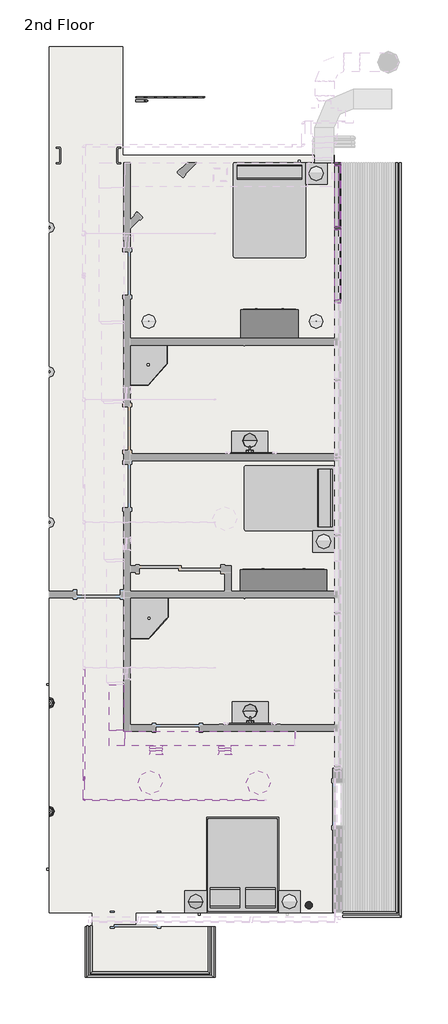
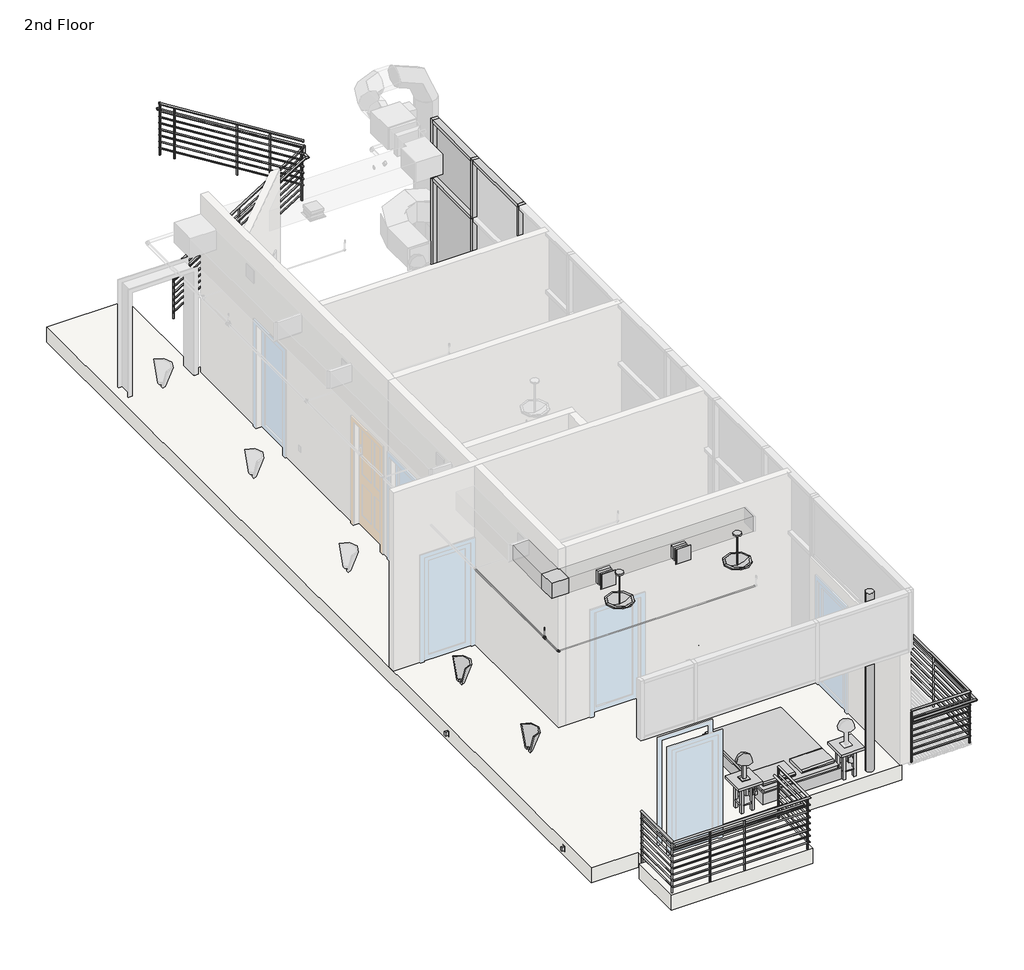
# One storey, part 2 of 7: 14 pipe segments, 11 furniture elements, 10 members, 10 pipe fittings, 5 light fixtures, 4 duct segments, 4 flow terminals, 3 duct fittings, 13 other elements.
"""IFC4 building model written with IfcOpenShell, lengths in millimetres."""

from ifc_helpers import new_model, si_unit, point, frame, frame_2d, origin, place, context, project, spatial, polyline, circle_curve, trimmed, segment, composite_curve, outline, extrude, transform, mapped, element, save
from ifc_brep_helpers import plane_surface, cylinder_surface, advanced_brep
from components import air_terminal_37217d21, air_terminal_79e12533, receptacle_gfci_367a9a66, rectangular_duct_mitered_elbow_standard_4ee72a37, rectangular_duct_takeoff_sidewall_standard_8ecd27dc, fire_suppression_terminal_f250fbbb, flow_terminal_45145805, flow_terminal_b3096e9a, furniture_1d2926bd, furniture_0253826f, furniture_e1791683, furniture_9fa109b2, furniture_7c473f12, mirror_3_x_4_424c4327, furniture_097b63cf, pendant_light_hemisphere_100w_120v_61837e73, sconce_light_uplight_100w_120v_70b3641e, table_lamp_hemispheric_60w_120v_02721d88, member_f0fea5a5, member_2b49869a, member_b964ebf8, member_798c2a08, member_d386c7f1, member_75074519, member_ee409385, pipe_elbow_standard_aad62f2d, pipe_elbow_standard_a25a5501, pipe_elbow1_standard_2_feaaf02c, pipe_pvc_bend_standard_46eee2b6, pipe_pvc_short_sanitary_tee1_standard_2_93607447, pipe_pvc_transition_eccentric1_standard_2_66b067ff, pipe_pvc_transition_eccentric1_standard_2_d7abf36d, pipe_tee_standard_feafe2f1, pipe_transition_eccentric_standard_3095b3c8, pipe_transition_eccentric_standard_dbf49378, system_panel_system_panel_958c1d96, system_panel_system_panel_35b29ec2, guardrail_pipe_0039a5d5, guardrail_pipe_96ed721d, guardrail_pipe_dc18c05d

model = new_model("IFC4")

# Units and contexts
model_context = context("Model", 3, world=origin())
ifc_project = project(units=[si_unit("LENGTHUNIT", "METRE", prefix="MILLI")], contexts=[model_context])

# Site, building, storey
site = spatial("IfcSite", under=ifc_project)
building = spatial("IfcBuilding", under=site)
storey = spatial("IfcBuildingStorey", under=building, Name="2nd Floor", Elevation=7924.8)

# Air terminals
placement = place(None, origin())
air_terminal_shape = air_terminal_37217d21(model_context)
element("IfcAirTerminal", 1, ObjectType="Sidewall Diffuser : 10\" x 10\"", at=placement, inside=storey, context=model_context, shape_type="MappedRepresentation", body=[
    mapped(air_terminal_shape, transform((-2209.5604947, -3347.1311684, 11023.6), x_axis=(1.0, 0.0, 0.0), y_axis=(0.0, 1.0, 0.0), z_axis=(0.0, 0.0, 1.0))),
])
air_terminal_2_shape = air_terminal_79e12533(model_context)
element("IfcAirTerminal", 2, ObjectType="Sidewall Diffuser : 10\" x 10\"", at=placement, inside=storey, context=model_context, shape_type="MappedRepresentation", body=[
    mapped(air_terminal_2_shape, transform((-755.4104947, -3347.1311684, 11023.6), x_axis=(1.0, 0.0, 0.0), y_axis=(0.0, 1.0, 0.0), z_axis=(0.0, 0.0, 1.0))),
])

# Proxies
receptacle_gfci_shape = receptacle_gfci_367a9a66(model_context)
element("IfcBuildingElementProxy", 3, Name="Receptacle : Standard", ObjectType="Receptacle : Standard", at=placement, inside=storey, context=model_context, shape_type="MappedRepresentation", body=[
    mapped(receptacle_gfci_shape, transform((-1295.1604947, -6684.540357, 8382.0), x_axis=(1.0, 0.0, 0.0), y_axis=(0.0, 0.0, -1.0), z_axis=(0.0, 1.0, 0.0))),
])
element("IfcBuildingElementProxy", 4, Name="Receptacle : Standard", ObjectType="Receptacle : Standard", at=placement, inside=storey, context=model_context, shape_type="MappedRepresentation", body=[
    mapped(receptacle_gfci_shape, transform((-4467.0439612, -5770.140357, 7772.4), x_axis=(0.0, 1.0, 0.0), y_axis=(0.0, 0.0, 1.0), z_axis=(1.0, 0.0, 0.0))),
])
element("IfcBuildingElementProxy", 5, Name="Receptacle : Standard", ObjectType="Receptacle : Standard", at=placement, inside=storey, context=model_context, shape_type="MappedRepresentation", body=[
    mapped(receptacle_gfci_shape, transform((-4467.0439612, -1870.3689983, 7772.4), x_axis=(0.0, 1.0, 0.0), y_axis=(0.0, 0.0, 1.0), z_axis=(1.0, 0.0, 0.0))),
])

# Column
element("IfcColumn", 6, ObjectType="Round Column : 06\" Diameter", at=placement, inside=storey, context=model_context, shape_type="SweptSolid", body=[
    extrude(outline(composite_curve([segment(trimmed(circle_curve(frame_2d((1019.3560388, -6532.140357)), 76.2), [point((1095.5560388, -6532.140357))], [point((943.1560388, -6532.140357))], False, "CARTESIAN"), True, "CONTINUOUS"), segment(trimmed(circle_curve(frame_2d((1019.3560388, -6532.140357)), 76.2), [point((943.1560388, -6532.140357))], [point((1019.3560388, -6455.940357))], False, "CARTESIAN"), True, "CONTINUOUS"), segment(trimmed(circle_curve(frame_2d((1019.3560388, -6532.140357)), 76.2), [point((1019.3560388, -6455.940357))], [point((1095.5560388, -6532.140357))], False, "CARTESIAN"), True, "CONTINUOUS")], self_intersect=False)), frame((0.0, 0.0, 7924.8), z_axis=(0.0, 0.0, 1.0), x_axis=(1.0, 0.0, 0.0)), (0.0, 0.0, 1.0), 3657.6),
])

# Duct fittings
rectangular_duct_mitered_elbow_standard_shape = rectangular_duct_mitered_elbow_standard_4ee72a37(model_context)
element("IfcDuctFitting", 7, ObjectType="Rectangular Duct Mitered Elbow : Standard", at=placement, inside=storey, context=model_context, shape_type="MappedRepresentation", body=[
    mapped(rectangular_duct_mitered_elbow_standard_shape, transform((-3047.7604947, -3013.3689983, 11023.6), x_axis=(0.0, -1.0, 0.0), y_axis=(1.0, 0.0, 0.0), z_axis=(0.0, 0.0, 1.0))),
])
rectangular_duct_takeoff_sidewall_standard_shape = rectangular_duct_takeoff_sidewall_standard_8ecd27dc(model_context)
element("IfcDuctFitting", 8, ObjectType="Rectangular Duct Takeoff - Sidewall : Standard", at=placement, inside=storey, context=model_context, shape_type="MappedRepresentation", body=[
    mapped(rectangular_duct_takeoff_sidewall_standard_shape, transform((-2209.5604947, -3165.7689983, 11023.6), x_axis=(0.0, -1.0, 0.0), y_axis=(1.0, 0.0, 0.0), z_axis=(0.0, 0.0, 1.0))),
])
element("IfcDuctFitting", 9, ObjectType="Rectangular Duct Takeoff - Sidewall : Standard", at=placement, inside=storey, context=model_context, shape_type="MappedRepresentation", body=[
    mapped(rectangular_duct_takeoff_sidewall_standard_shape, transform((-755.4104947, -3165.7689983, 11023.6), x_axis=(0.0, -1.0, 0.0), y_axis=(1.0, 0.0, 0.0), z_axis=(0.0, 0.0, 1.0))),
])

# Duct segments
element("IfcDuctSegment", 10, ObjectType="Mitered Elbows / Taps", at=placement, inside=storey, context=model_context, shape_type="SweptSolid", body=[
    extrude(outline(polyline([(-2336.5604947, -3216.5689983), (-2082.5604947, -3216.5689983), (-2082.5604947, -3270.9311684), (-2336.5604947, -3270.9311684), (-2336.5604947, -3216.5689983)])), frame((0.0, 0.0, 10896.6), z_axis=(0.0, 0.0, 1.0), x_axis=(1.0, 0.0, 0.0)), (0.0, 0.0, 1.0), 254.0),
])
element("IfcDuctSegment", 11, ObjectType="Mitered Elbows / Taps", at=placement, inside=storey, context=model_context, shape_type="SweptSolid", body=[
    extrude(outline(polyline([(-882.4104947, -3216.5689983), (-628.4104947, -3216.5689983), (-628.4104947, -3270.9311684), (-882.4104947, -3270.9311684), (-882.4104947, -3216.5689983)])), frame((0.0, 0.0, 10896.6), z_axis=(0.0, 0.0, 1.0), x_axis=(1.0, 0.0, 0.0)), (0.0, 0.0, 1.0), 254.0),
])
element("IfcDuctSegment", 12, ObjectType="Mitered Elbows / Tees", at=placement, inside=storey, context=model_context, shape_type="SweptSolid", body=[
    extrude(outline(polyline([(-3200.1604947, -1870.3689983), (-2895.3604947, -1870.3689983), (-2895.3604947, -2835.5689983), (-3200.1604947, -2835.5689983), (-3200.1604947, -1870.3689983)])), frame((0.0, 0.0, 10871.2), z_axis=(0.0, 0.0, 1.0), x_axis=(1.0, 0.0, 0.0)), (0.0, 0.0, 1.0), 304.8),
])
element("IfcDuctSegment", 13, ObjectType="Mitered Elbows / Tees", at=placement, inside=storey, context=model_context, shape_type="SweptSolid", body=[
    extrude(outline(polyline([(-2869.9604947, -3165.7689983), (-2869.9604947, -2860.9689983), (718.6069436, -2860.9689983), (718.6069436, -3165.7689983), (-2869.9604947, -3165.7689983)])), frame((0.0, 0.0, 10871.2), z_axis=(0.0, 0.0, 1.0), x_axis=(1.0, 0.0, 0.0)), (0.0, 0.0, 1.0), 304.8),
])

# Fire suppression terminal
fire_suppression_terminal_shape = fire_suppression_terminal_f250fbbb(model_context)
element("IfcFireSuppressionTerminal", 14, ObjectType="Sprinkler - Upright : 1/2\" Upright", at=placement, inside=storey, context=model_context, shape_type="MappedRepresentation", body=[
    mapped(fire_suppression_terminal_shape, transform((-3733.5604947, -3851.5689983, 10820.4), x_axis=(1.0, 0.0, 0.0), y_axis=(0.0, 1.0, 0.0), z_axis=(0.0, 0.0, 1.0))),
])

# Flow terminals
flow_terminal_shape = flow_terminal_45145805(model_context)
element("IfcFlowTerminal", 15, ObjectType="Corner Shower Stall : 32\"x34\"", at=placement, inside=storey, context=model_context, shape_type="MappedRepresentation", body=[
    mapped(flow_terminal_shape, transform((-2809.6608658, 5568.4431127, 7924.8), x_axis=(0.0, -1.0, 0.0), y_axis=(1.0, 0.0, 0.0), z_axis=(0.0, 0.0, 1.0))),
])
element("IfcFlowTerminal", 16, ObjectType="Corner Shower Stall : 32\"x34\"", at=placement, inside=storey, context=model_context, shape_type="MappedRepresentation", body=[
    mapped(flow_terminal_shape, transform((-2793.7882183, 215.0569971, 7924.8), x_axis=(0.0, -1.0, 0.0), y_axis=(1.0, 0.0, 0.0), z_axis=(0.0, 0.0, 1.0))),
])
flow_terminal_2_shape = flow_terminal_b3096e9a(model_context)
element("IfcFlowTerminal", 17, ObjectType="Vanity Lavatory : 30\" x 19\"", at=placement, inside=storey, context=model_context, shape_type="MappedRepresentation", body=[
    mapped(flow_terminal_2_shape, transform((-228.4021776, 3000.1640137, 7924.8), x_axis=(0.0, 1.0, 0.0), y_axis=(-1.0, 0.0, 0.0), z_axis=(0.0, 0.0, 1.0))),
])
element("IfcFlowTerminal", 18, ObjectType="Vanity Lavatory : 30\" x 19\"", at=placement, inside=storey, context=model_context, shape_type="MappedRepresentation", body=[
    mapped(flow_terminal_2_shape, transform((-221.3107885, -2715.6280238, 7924.8), x_axis=(0.0, 1.0, 0.0), y_axis=(-1.0, 0.0, 0.0), z_axis=(0.0, 0.0, 1.0))),
])

# Furniture
furniture_shape = furniture_1d2926bd(model_context)
element("IfcFurniture", 19, ObjectType="Bed-Box : Queen 60\" x 79\"", at=placement, inside=storey, context=model_context, shape_type="MappedRepresentation", body=[
    mapped(furniture_shape, transform((-41.6080356, -5915.6698652, 7924.8), x_axis=(-1.0, 0.0, 0.0), y_axis=(0.0, -1.0, 0.0), z_axis=(0.0, 0.0, 1.0))),
])
furniture_2_shape = furniture_0253826f(model_context)
element("IfcFurniture", 20, ObjectType="Bed-Standard : Double 54\" x 75\"", at=placement, inside=storey, context=model_context, shape_type="MappedRepresentation", body=[
    mapped(furniture_2_shape, transform((652.2011208, 2338.1195263, 7924.8), x_axis=(0.0, -1.0000000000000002, 0.0), y_axis=(1.0000000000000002, 0.0, 0.0), z_axis=(0.0, 0.0, 1.0))),
])
furniture_3_shape = furniture_e1791683(model_context)
element("IfcFurniture", 21, ObjectType="Bed-Standard : Queen 60\" x 79\"", at=placement, inside=storey, context=model_context, shape_type="MappedRepresentation", body=[
    mapped(furniture_3_shape, transform((-83.9824858, 8194.6547249, 7924.8), x_axis=(1.0, 0.0, 0.0), y_axis=(0.0, 1.0, 0.0), z_axis=(0.0, 0.0, 1.0))),
])
furniture_4_shape = furniture_9fa109b2(model_context)
element("IfcFurniture", 22, ObjectType="Dresser : 48\" x 72\" x 24\"", at=placement, inside=storey, context=model_context, shape_type="MappedRepresentation", body=[
    mapped(furniture_4_shape, transform((-81.687221, 5380.1180476, 7924.8), x_axis=(-1.0, 0.0, 0.0), y_axis=(0.0, -1.0, 0.0), z_axis=(0.0, 0.0, 1.0))),
])
furniture_5_shape = furniture_7c473f12(model_context)
element("IfcFurniture", 23, ObjectType="Dresser : 72\" x 60\" x 18\"", at=placement, inside=storey, context=model_context, shape_type="MappedRepresentation", body=[
    mapped(furniture_5_shape, transform((213.6462455, -33.5954995, 7924.8), x_axis=(-1.0, 0.0, 0.0), y_axis=(0.0, -1.0, 0.0), z_axis=(0.0, 0.0, 1.0))),
])
mirror_3_x_4_shape = mirror_3_x_4_424c4327(model_context)
element("IfcFurniture", 24, ObjectType="Mirror : 3' x 4'", at=placement, inside=storey, context=model_context, shape_type="MappedRepresentation", body=[
    mapped(mirror_3_x_4_shape, transform((-225.2439612, -2714.9189983, 8839.2), x_axis=(-1.0, 0.0, 0.0), y_axis=(0.0, 0.0, 1.0), z_axis=(0.0, 1.0, 0.0))),
])
element("IfcFurniture", 25, ObjectType="Mirror : 3' x 4'", at=placement, inside=storey, context=model_context, shape_type="MappedRepresentation", body=[
    mapped(mirror_3_x_4_shape, transform((-199.8439612, 3000.0810017, 8839.2), x_axis=(-1.0, 0.0, 0.0), y_axis=(0.0, 0.0, 1.0), z_axis=(0.0, 1.0, 0.0))),
])
furniture_6_shape = furniture_097b63cf(model_context)
element("IfcFurniture", 26, ObjectType="Table-Night Stand : 18\" x 18\" x 24\"", at=placement, inside=storey, context=model_context, shape_type="MappedRepresentation", body=[
    mapped(furniture_6_shape, transform((377.5058751, -6684.540357, 7924.8), x_axis=(1.0, 0.0, 0.0), y_axis=(0.0, 1.0, 0.0), z_axis=(0.0, 0.0, 1.0))),
])
element("IfcFurniture", 27, ObjectType="Table-Night Stand : 18\" x 18\" x 24\"", at=placement, inside=storey, context=model_context, shape_type="MappedRepresentation", body=[
    mapped(furniture_6_shape, transform((-1603.6941249, -6684.540357, 7924.8), x_axis=(1.0, 0.0, 0.0), y_axis=(0.0, 1.0, 0.0), z_axis=(0.0, 0.0, 1.0))),
])
element("IfcFurniture", 28, ObjectType="Table-Night Stand : 18\" x 18\" x 24\"", at=placement, inside=storey, context=model_context, shape_type="MappedRepresentation", body=[
    mapped(furniture_6_shape, transform((1098.1724085, 923.6310017, 7924.8), x_axis=(1.0, 0.0, 0.0), y_axis=(0.0, 1.0, 0.0), z_axis=(0.0, 0.0, 1.0))),
])
element("IfcFurniture", 29, ObjectType="Table-Night Stand : 18\" x 18\" x 24\"", at=placement, inside=storey, context=model_context, shape_type="MappedRepresentation", body=[
    mapped(furniture_6_shape, transform((945.7724085, 8695.159643, 7924.8), x_axis=(1.0, 0.0, 0.0), y_axis=(0.0, 1.0, 0.0), z_axis=(0.0, 0.0, 1.0))),
])

# Light fixtures
pendant_light_hemisphere_100w_120v_shape = pendant_light_hemisphere_100w_120v_61837e73(model_context)
element("IfcLightFixture", 30, ObjectType="Pendant Light - Hemisphere : 100W - 120V", at=placement, inside=storey, context=model_context, shape_type="MappedRepresentation", body=[
    mapped(pendant_light_hemisphere_100w_120v_shape, transform((-2333.4439612, -3941.340357, 11582.4), x_axis=(1.0, 0.0, 0.0), y_axis=(0.0, -1.0, 0.0), z_axis=(0.0, 0.0, -1.0))),
])
element("IfcLightFixture", 31, ObjectType="Pendant Light - Hemisphere : 100W - 120V", at=placement, inside=storey, context=model_context, shape_type="MappedRepresentation", body=[
    mapped(pendant_light_hemisphere_100w_120v_shape, transform((-47.4439612, -3941.340357, 11582.4), x_axis=(1.0, 0.0, 0.0), y_axis=(0.0, -1.0, 0.0), z_axis=(0.0, 0.0, -1.0))),
])
sconce_light_uplight_100w_120v_shape = sconce_light_uplight_100w_120v_70b3641e(model_context)
element("IfcLightFixture", 32, ObjectType="Sconce Light - Uplight : 60W - 120V", at=placement, inside=storey, context=model_context, shape_type="MappedRepresentation", body=[
    mapped(sconce_light_uplight_100w_120v_shape, transform((-4467.0439612, -2254.8825454, 9245.6), x_axis=(0.0, 1.0, 0.0), y_axis=(0.0, 0.0, 1.0), z_axis=(1.0, 0.0, 0.0))),
])
element("IfcLightFixture", 33, ObjectType="Sconce Light - Uplight : 60W - 120V", at=placement, inside=storey, context=model_context, shape_type="MappedRepresentation", body=[
    mapped(sconce_light_uplight_100w_120v_shape, transform((-4467.0439612, -4550.940357, 9245.6), x_axis=(0.0, 1.0, 0.0), y_axis=(0.0, 0.0, 1.0), z_axis=(1.0, 0.0, 0.0))),
])
table_lamp_hemispheric_60w_120v_shape = table_lamp_hemispheric_60w_120v_02721d88(model_context)
element("IfcLightFixture", 34, ObjectType="Table Lamp - Hemispheric : 60W - 120V", at=placement, inside=storey, context=model_context, shape_type="MappedRepresentation", body=[
    mapped(table_lamp_hemispheric_60w_120v_shape, transform((-1371.3604947, -6455.940357, 8521.7), x_axis=(1.0, 0.0, 0.0), y_axis=(0.0, 1.0, 0.0), z_axis=(0.0, 0.0, 1.0))),
])

# Members
member_shape = member_f0fea5a5(model_context)
element("IfcMember", 35, ObjectType="Rectangular Mullion : 2.5\" x 5\" rectangular", at=placement, inside=storey, context=model_context, shape_type="MappedRepresentation", body=[
    mapped(member_shape, transform((1628.9560388, 7768.059643, 7924.8), x_axis=(0.0, -1.0, 0.0), y_axis=(-1.0, 0.0, 0.0), z_axis=(0.0, 0.0, -1.0))),
])
member_2_shape = member_2b49869a(model_context)
element("IfcMember", 36, ObjectType="Rectangular Mullion : 2.5\" x 5\" rectangular", at=placement, inside=storey, context=model_context, shape_type="MappedRepresentation", body=[
    mapped(member_2_shape, transform((1628.9560388, 6218.659643, 10363.2), x_axis=(0.0, -1.0, 0.0), y_axis=(-1.0, 0.0, 0.0), z_axis=(0.0, 0.0, -1.0))),
])
element("IfcMember", 37, ObjectType="Rectangular Mullion : 2.5\" x 5\" rectangular", at=placement, inside=storey, context=model_context, shape_type="MappedRepresentation", body=[
    mapped(member_2_shape, transform((1628.9560388, 7768.059643, 10363.2), x_axis=(0.0, -1.0, 0.0), y_axis=(-1.0, 0.0, 0.0), z_axis=(0.0, 0.0, -1.0))),
])
member_3_shape = member_b964ebf8(model_context)
element("IfcMember", 38, ObjectType="Rectangular Mullion : 2.5\" x 5\" rectangular", at=placement, inside=storey, context=model_context, shape_type="MappedRepresentation", body=[
    mapped(member_3_shape, transform((1628.9560388, 6250.409643, 11582.4), x_axis=(0.0, 0.0, 1.0), y_axis=(-1.0, 0.0, 0.0), z_axis=(0.0, -1.0, 0.0))),
])
member_4_shape = member_798c2a08(model_context)
element("IfcMember", 39, ObjectType="Rectangular Mullion : 2.5\" x 5\" rectangular", at=placement, inside=storey, context=model_context, shape_type="MappedRepresentation", body=[
    mapped(member_4_shape, transform((1628.9560388, 7799.809643, 11582.4), x_axis=(0.0, 0.0, 1.0), y_axis=(-1.0, 0.0, 0.0), z_axis=(0.0, -1.0, 0.0))),
])
member_5_shape = member_d386c7f1(model_context)
element("IfcMember", 40, ObjectType="Rectangular Mullion : 2.5\" x 5\" rectangular", at=placement, inside=storey, context=model_context, shape_type="MappedRepresentation", body=[
    mapped(member_5_shape, transform((1628.9560388, 7799.809643, 10363.2), x_axis=(0.0, 0.0, 1.0), y_axis=(-1.0, 0.0, 0.0), z_axis=(0.0, -1.0, 0.0))),
])
element("IfcMember", 41, ObjectType="Rectangular Mullion : 2.5\" x 5\" rectangular", at=placement, inside=storey, context=model_context, shape_type="MappedRepresentation", body=[
    mapped(member_4_shape, transform((1628.9560388, 9088.859643, 7924.8), x_axis=(0.0, 0.0, -1.0), y_axis=(-1.0, 0.0, 0.0), z_axis=(0.0, 1.0, 0.0))),
])
element("IfcMember", 42, ObjectType="Rectangular Mullion : 2.5\" x 5\" rectangular", at=placement, inside=storey, context=model_context, shape_type="MappedRepresentation", body=[
    mapped(member_3_shape, transform((1628.9560388, 7736.309643, 7924.8), x_axis=(0.0, 0.0, -1.0), y_axis=(-1.0, 0.0, 0.0), z_axis=(0.0, 1.0, 0.0))),
])
member_6_shape = member_75074519(model_context)
element("IfcMember", 43, ObjectType="Rectangular Mullion : 2.5\" x 5\" rectangular", at=placement, inside=storey, context=model_context, shape_type="MappedRepresentation", body=[
    mapped(member_6_shape, transform((1628.9560388, 9152.359643, 11582.4), x_axis=(0.0, 1.0, 0.0), y_axis=(-1.0, 0.0, 0.0), z_axis=(0.0, 0.0, 1.0))),
])
member_7_shape = member_ee409385(model_context)
element("IfcMember", 44, ObjectType="Rectangular Mullion : 2.5\" x 5\" rectangular", at=placement, inside=storey, context=model_context, shape_type="MappedRepresentation", body=[
    mapped(member_7_shape, transform((1628.9560388, 9152.359643, 10363.2), x_axis=(0.0, 1.0, 0.0), y_axis=(-1.0, 0.0, 0.0), z_axis=(0.0, 0.0, 1.0))),
])

# Pipe fittings
pipe_elbow_standard_shape = pipe_elbow_standard_aad62f2d(model_context)
element("IfcPipeFitting", 45, ObjectType="Pipe Elbow : Standard", at=placement, inside=storey, context=model_context, shape_type="MappedRepresentation", body=[
    mapped(pipe_elbow_standard_shape, transform((-119.7107885, -2786.7000325, 8610.6), x_axis=(0.0, -1.0, 0.0), y_axis=(0.0, 0.0, -1.0), z_axis=(1.0, 0.0, 0.0))),
])
pipe_elbow_standard_2_shape = pipe_elbow_standard_a25a5501(model_context)
element("IfcPipeFitting", 46, ObjectType="Pipe Elbow : Standard", at=placement, inside=storey, context=model_context, shape_type="MappedRepresentation", body=[
    mapped(pipe_elbow_standard_2_shape, transform((-1039.2875177, -2786.7000325, 7315.2), x_axis=(0.0, -1.0, 0.0), y_axis=(1.0, 0.0, 0.0), z_axis=(0.0, 0.0, 1.0))),
])
pipe_elbow1_standard_2_shape = pipe_elbow1_standard_2_feaaf02c(model_context)
element("IfcPipeFitting", 47, ObjectType="Pipe Elbow1 : Standard 2", at=placement, inside=storey, context=model_context, shape_type="MappedRepresentation", body=[
    mapped(pipe_elbow1_standard_2_shape, transform((-3733.5604947, -4308.7689983, 10668.0), x_axis=(-1.0, 0.0, 0.0), y_axis=(0.0, 1.0, 0.0), z_axis=(0.0, 0.0, -1.0))),
])
pipe_pvc_bend_standard_shape = pipe_pvc_bend_standard_46eee2b6(model_context)
element("IfcPipeFitting", 48, ObjectType="Pipe PVC Bend : Standard", at=placement, inside=storey, context=model_context, shape_type="MappedRepresentation", body=[
    mapped(pipe_pvc_bend_standard_shape, transform((-1102.7042057, -2435.4814071, 7468.4330847), x_axis=(0.0, -0.9999458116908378, 0.010410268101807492), y_axis=(0.9999451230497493, 0.00010906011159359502, 0.010475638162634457), z_axis=(-0.01047620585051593, 0.010409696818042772, 0.9998909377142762))),
])
pipe_pvc_short_sanitary_tee1_standard_2_shape = pipe_pvc_short_sanitary_tee1_standard_2_93607447(model_context)
element("IfcPipeFitting", 49, ObjectType="Pipe PVC Short Sanitary Tee1 : Standard 2", at=placement, inside=storey, context=model_context, shape_type="MappedRepresentation", body=[
    mapped(pipe_pvc_short_sanitary_tee1_standard_2_shape, transform((-1102.7042057, -2148.4076018, 7465.4444075), x_axis=(0.0, -0.999945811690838, 0.01041026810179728), y_axis=(0.9997831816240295, 0.00021677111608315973, 0.020821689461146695), z_axis=(-0.020822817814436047, 0.010408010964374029, 0.9997290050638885))),
])
pipe_pvc_transition_eccentric1_standard_2_shape = pipe_pvc_transition_eccentric1_standard_2_66b067ff(model_context)
element("IfcPipeFitting", 50, ObjectType="Pipe PVC Transition Eccentric1 : Standard 2", at=placement, inside=storey, context=model_context, shape_type="MappedRepresentation", body=[
    mapped(pipe_pvc_transition_eccentric1_standard_2_shape, transform((-1167.7917057, -2295.6067121, 7466.9768727), x_axis=(0.0, -0.999945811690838, 0.010410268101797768), y_axis=(-1.0, 0.0, 0.0), z_axis=(0.0, -0.010410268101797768, -0.999945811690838))),
])
pipe_pvc_transition_eccentric1_standard_2_2_shape = pipe_pvc_transition_eccentric1_standard_2_d7abf36d(model_context)
element("IfcPipeFitting", 51, ObjectType="Pipe PVC Transition Eccentric1 : Standard 2", at=placement, inside=storey, context=model_context, shape_type="MappedRepresentation", body=[
    mapped(pipe_pvc_transition_eccentric1_standard_2_2_shape, transform((-1005.9460272, -2149.0849557, 7402.3616402), x_axis=(0.9997831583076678, 8.132927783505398e-07, 0.02082393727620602), y_axis=(0.02082281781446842, -0.010408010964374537, -0.9997290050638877), z_axis=(0.00021592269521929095, 0.9999458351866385, -0.010405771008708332))),
])
pipe_tee_standard_shape = pipe_tee_standard_feafe2f1(model_context)
element("IfcPipeFitting", 52, ObjectType="Pipe Tee : Standard", at=placement, inside=storey, context=model_context, shape_type="MappedRepresentation", body=[
    mapped(pipe_tee_standard_shape, transform((-3733.5604947, -3851.5689983, 10668.0), x_axis=(0.0, -1.0, 0.0), y_axis=(0.0, 0.0, -1.0), z_axis=(1.0, 0.0, 0.0))),
])
pipe_transition_eccentric_standard_shape = pipe_transition_eccentric_standard_3095b3c8(model_context)
element("IfcPipeFitting", 53, ObjectType="Pipe Transition Eccentric : Standard", at=placement, inside=storey, context=model_context, shape_type="MappedRepresentation", body=[
    mapped(pipe_transition_eccentric_standard_shape, transform((-3733.5604947, -3851.5689983, 10698.1625), x_axis=(0.0, 0.0, 1.0), y_axis=(0.0, -1.0, 0.0), z_axis=(1.0, 0.0, 0.0))),
])
pipe_transition_eccentric_standard_2_shape = pipe_transition_eccentric_standard_dbf49378(model_context)
element("IfcPipeFitting", 54, ObjectType="Pipe Transition Eccentric : Standard", at=placement, inside=storey, context=model_context, shape_type="MappedRepresentation", body=[
    mapped(pipe_transition_eccentric_standard_2_shape, transform((-3733.5604947, -3881.7314983, 10668.0), x_axis=(0.0, -1.0, 0.0), y_axis=(1.0, 0.0, 0.0), z_axis=(0.0, 0.0, 1.0))),
])

# Pipe segments
element("IfcPipeSegment", 55, ObjectType="PVC", at=placement, inside=storey, context=model_context, shape_type="AdvancedBrep", body=[
    advanced_brep(
    [(-221.3107885, -2414.3522738, 8553.4499999), (-242.3927885, -2435.4342738, 8553.4499999), (-221.3107885, -2456.5162738, 8553.4500001), (-200.2287885, -2435.4342738, 8553.4500001), (-221.3107836, -2414.3522787, 7514.2390771), (-200.2287836, -2435.4342787, 7514.2390773), (-221.3107836, -2456.5162787, 7514.2390773), (-242.3927836, -2435.4342787, 7514.2390771)],
    [
        (0, 1, circle_curve(frame((-221.3107885, -2435.4342738, 8553.4499999), z_axis=(0.0, 0.0, 1.0), x_axis=(0.0, 1.0, 0.0)), 21.082)),
        (1, 2, circle_curve(frame((-221.3107885, -2435.4342738, 8553.4499999), z_axis=(0.0, 0.0, 1.0), x_axis=(0.0, 1.0, 0.0)), 21.082)),
        (2, 3, circle_curve(frame((-221.3107885, -2435.4342738, 8553.4500001), z_axis=(0.0, 0.0, 1.0), x_axis=(0.0, 1.0, 0.0)), 21.082)),
        (3, 0, circle_curve(frame((-221.3107885, -2435.4342738, 8553.4500001), z_axis=(0.0, 0.0, 1.0), x_axis=(0.0, 1.0, 0.0)), 21.082)),
        (4, 5, circle_curve(frame((-221.3107885, -2435.4342738, 7514.2390771), z_axis=(0.0, 0.0, -1.0), x_axis=(0.0, 1.0, 0.0)), 21.0819951)),
        (5, 6, circle_curve(frame((-221.3107885, -2435.4342738, 7514.2390773), z_axis=(0.0, 0.0, -1.0), x_axis=(0.0, 1.0, 0.0)), 21.082005)),
        (6, 7, circle_curve(frame((-221.3107885, -2435.4342738, 7514.2390773), z_axis=(0.0, 0.0, -1.0), x_axis=(0.0, 1.0, 0.0)), 21.0820049)),
        (7, 4, circle_curve(frame((-221.3107885, -2435.4342738, 7514.2390771), z_axis=(0.0, 0.0, -1.0), x_axis=(0.0, 1.0, 0.0)), 21.081995)),
        (0, 4),
        (7, 1),
        (6, 2),
        (5, 3),
    ],
    [
        plane_surface(frame((-221.3107885, -2456.5162738, 8553.4500001), z_axis=(-4.768317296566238e-09, 4.738558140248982e-09, 1.0), x_axis=(-1.0, 0.0, -4.768317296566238e-09))),
        plane_surface(frame((-221.3107836, -2456.5162787, 7514.2390773), z_axis=(4.768317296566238e-09, -4.738558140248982e-09, -1.0), x_axis=(-1.0, 0.0, -4.768317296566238e-09))),
        cylinder_surface(frame((-221.3107885, -2435.4342738, 8553.45), z_axis=(0.0, 0.0, 1.0), x_axis=(0.0, 1.0, 0.0)), 21.082),
    ],
    [
        (0, [[1, 2, 3, 4]]),
        (1, [[5, 6, 7, 8]]),
        (2, [[-1, 9, -8, 10]]),
        (2, [[-2, -10, -7, 11]]),
        (2, [[-3, -11, -6, 12]]),
        (2, [[-4, -12, -5, -9]]),
    ],
),
])
element("IfcPipeSegment", 56, ObjectType="PVC", at=placement, inside=storey, context=model_context, shape_type="SweptSolid", body=[
    extrude(outline(composite_curve([segment(trimmed(circle_curve(frame_2d((0.0, 21.082)), 21.082), [point((-21.082, 21.082))], [point((0.0, 42.164))], False, "CARTESIAN"), True, "CONTINUOUS"), segment(trimmed(circle_curve(frame_2d((0.0, 21.082)), 21.082), [point((0.0, 42.164))], [point((21.082, 21.082))], False, "CARTESIAN"), True, "CONTINUOUS"), segment(trimmed(circle_curve(frame_2d((0.0, 21.082)), 21.082), [point((21.082, 21.082))], [point((0.0, 0.0))], False, "CARTESIAN"), True, "CONTINUOUS"), segment(trimmed(circle_curve(frame_2d((0.0, 21.082)), 21.082), [point((0.0, 0.0))], [point((-21.082, 21.082))], False, "CARTESIAN"), True, "CONTINUOUS")], self_intersect=False)), frame((-1102.7042057, -2318.0499771, 7446.1273833), z_axis=(0.0, -0.999945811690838, 0.01041026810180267), x_axis=(1.0, 0.0, 0.0)), (0.0, 0.0, 1.0), 80.702244),
])
element("IfcPipeSegment", 57, ObjectType="PVC", at=placement, inside=storey, context=model_context, shape_type="SweptSolid", body=[
    extrude(outline(composite_curve([segment(trimmed(circle_curve(frame_2d((0.0, 44.45)), 44.45), [point((-44.45, 44.45))], [point((0.0, 88.9))], False, "CARTESIAN"), True, "CONTINUOUS"), segment(trimmed(circle_curve(frame_2d((0.0, 44.45)), 44.45), [point((0.0, 88.9))], [point((44.45, 44.45))], False, "CARTESIAN"), True, "CONTINUOUS"), segment(trimmed(circle_curve(frame_2d((0.0, 44.45)), 44.45), [point((44.45, 44.45))], [point((0.0, 0.0))], False, "CARTESIAN"), True, "CONTINUOUS"), segment(trimmed(circle_curve(frame_2d((0.0, 44.45)), 44.45), [point((0.0, 0.0))], [point((-44.45, 44.45))], False, "CARTESIAN"), True, "CONTINUOUS")], self_intersect=False)), frame((-1102.7042057, -2196.5085245, 7421.4927693), z_axis=(0.0, -0.999945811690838, 0.01041026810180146), x_axis=(1.0, 0.0, 0.0)), (0.0, 0.0, 1.0), 99.5663194),
])
element("IfcPipeSegment", 58, ObjectType="PVC", at=placement, inside=storey, context=model_context, shape_type="SweptSolid", body=[
    extrude(outline(composite_curve([segment(trimmed(circle_curve(frame_2d((0.0, 44.4499999)), 44.45), [point((-44.4476104, 44.9109005))], [point((0.4609005, 88.8976104))], False, "CARTESIAN"), True, "CONTINUOUS"), segment(trimmed(circle_curve(frame_2d((0.0, 44.4499999)), 44.45), [point((0.4609005, 88.8976104))], [point((44.4476104, 43.9890994))], False, "CARTESIAN"), True, "CONTINUOUS"), segment(trimmed(circle_curve(frame_2d((0.0, 44.4499999)), 44.45), [point((44.4476104, 43.9890994))], [point((-0.4609005, 0.0023896))], False, "CARTESIAN"), True, "CONTINUOUS"), segment(trimmed(circle_curve(frame_2d((0.0, 44.4499999)), 44.45), [point((-0.4609005, 0.0023896))], [point((-44.4476104, 44.9109005))], False, "CARTESIAN"), True, "CONTINUOUS")], self_intersect=False)), frame((-1029.7108066, -2192.8575424, 7466.9664834), z_axis=(0.9997831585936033, 8.132926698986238e-07, 0.020823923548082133), x_axis=(0.020823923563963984, -3.9047219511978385e-05, -0.9997831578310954)), (0.0, 0.0, 1.0), 22.4143346),
])
element("IfcPipeSegment", 59, ObjectType="Standard", at=placement, inside=storey, context=model_context, shape_type="SweptSolid", body=[
    extrude(outline(composite_curve([segment(trimmed(circle_curve(frame_2d((-2786.7000325, 7315.2)), 7.9375), [point((-2794.6375325, 7315.2))], [point((-2786.7000325, 7323.1375))], False, "CARTESIAN"), True, "CONTINUOUS"), segment(trimmed(circle_curve(frame_2d((-2786.7000325, 7315.2)), 7.9375), [point((-2786.7000325, 7323.1375))], [point((-2778.7625325, 7315.2))], False, "CARTESIAN"), True, "CONTINUOUS"), segment(trimmed(circle_curve(frame_2d((-2786.7000325, 7315.2)), 7.9375), [point((-2778.7625325, 7315.2))], [point((-2786.7000325, 7307.2625))], False, "CARTESIAN"), True, "CONTINUOUS"), segment(trimmed(circle_curve(frame_2d((-2786.7000325, 7315.2)), 7.9375), [point((-2786.7000325, 7307.2625))], [point((-2794.6375325, 7315.2))], False, "CARTESIAN"), True, "CONTINUOUS")], self_intersect=False)), frame((-696.5451715, 0.0, 0.0), z_axis=(1.0, 0.0, 0.0), x_axis=(0.0, 1.0, 0.0)), (0.0, 0.0, 1.0), 553.021883),
])
element("IfcPipeSegment", 60, ObjectType="Standard", at=placement, inside=storey, context=model_context, shape_type="SweptSolid", body=[
    extrude(outline(composite_curve([segment(trimmed(circle_curve(frame_2d((8610.6, -119.7107885)), 7.9375), [point((8610.6, -127.6482885))], [point((8602.6625, -119.7107885))], False, "CARTESIAN"), True, "CONTINUOUS"), segment(trimmed(circle_curve(frame_2d((8610.6, -119.7107885)), 7.9375), [point((8602.6625, -119.7107885))], [point((8610.6, -111.7732885))], False, "CARTESIAN"), True, "CONTINUOUS"), segment(trimmed(circle_curve(frame_2d((8610.6, -119.7107885)), 7.9375), [point((8610.6, -111.7732885))], [point((8618.5375, -119.7107885))], False, "CARTESIAN"), True, "CONTINUOUS"), segment(trimmed(circle_curve(frame_2d((8610.6, -119.7107885)), 7.9375), [point((8618.5375, -119.7107885))], [point((8610.6, -127.6482885))], False, "CARTESIAN"), True, "CONTINUOUS")], self_intersect=False)), frame((0.0, -2769.2375325, 0.0), z_axis=(0.0, 1.0, 0.0), x_axis=(0.0, 0.0, 1.0)), (0.0, 0.0, 1.0), 53.6095087),
])
element("IfcPipeSegment", 61, ObjectType="Standard", at=placement, inside=storey, context=model_context, shape_type="SweptSolid", body=[
    extrude(outline(composite_curve([segment(trimmed(circle_curve(frame_2d((-119.7107885, -2786.7000325)), 7.9375), [point((-111.7732885, -2786.7000325))], [point((-119.7107885, -2794.6375325))], False, "CARTESIAN"), True, "CONTINUOUS"), segment(trimmed(circle_curve(frame_2d((-119.7107885, -2786.7000325)), 7.9375), [point((-119.7107885, -2794.6375325))], [point((-127.6482885, -2786.7000325))], False, "CARTESIAN"), True, "CONTINUOUS"), segment(trimmed(circle_curve(frame_2d((-119.7107885, -2786.7000325)), 7.9375), [point((-127.6482885, -2786.7000325))], [point((-119.7107885, -2778.7625325))], False, "CARTESIAN"), True, "CONTINUOUS"), segment(trimmed(circle_curve(frame_2d((-119.7107885, -2786.7000325)), 7.9375), [point((-119.7107885, -2778.7625325))], [point((-111.7732885, -2786.7000325))], False, "CARTESIAN"), True, "CONTINUOUS")], self_intersect=False)), frame((0.0, 0.0, 7339.0125), z_axis=(0.0, 0.0, 1.0), x_axis=(1.0, 0.0, 0.0)), (0.0, 0.0, 1.0), 1254.125),
])
element("IfcPipeSegment", 62, ObjectType="Standard", at=placement, inside=storey, context=model_context, shape_type="SweptSolid", body=[
    extrude(outline(composite_curve([segment(trimmed(circle_curve(frame_2d((8610.6, -322.9107885)), 7.9375), [point((8610.6, -330.8482885))], [point((8602.6625, -322.9107885))], False, "CARTESIAN"), True, "CONTINUOUS"), segment(trimmed(circle_curve(frame_2d((8610.6, -322.9107885)), 7.9375), [point((8602.6625, -322.9107885))], [point((8610.6, -314.9732885))], False, "CARTESIAN"), True, "CONTINUOUS"), segment(trimmed(circle_curve(frame_2d((8610.6, -322.9107885)), 7.9375), [point((8610.6, -314.9732885))], [point((8618.5375, -322.9107885))], False, "CARTESIAN"), True, "CONTINUOUS"), segment(trimmed(circle_curve(frame_2d((8610.6, -322.9107885)), 7.9375), [point((8618.5375, -322.9107885))], [point((8610.6, -330.8482885))], False, "CARTESIAN"), True, "CONTINUOUS")], self_intersect=False)), frame((0.0, -2743.8374309, 0.0), z_axis=(0.0, 1.0, 0.0), x_axis=(0.0, 0.0, 1.0)), (0.0, 0.0, 1.0), 28.2094071),
])
element("IfcPipeSegment", 63, ObjectType="Standard", at=placement, inside=storey, context=model_context, shape_type="SweptSolid", body=[
    extrude(outline(composite_curve([segment(trimmed(circle_curve(frame_2d((7315.2, -733.8514215)), 14.2875), [point((7315.2, -748.1389215))], [point((7300.9125, -733.8514215))], False, "CARTESIAN"), True, "CONTINUOUS"), segment(trimmed(circle_curve(frame_2d((7315.2, -733.8514215)), 14.2875), [point((7300.9125, -733.8514215))], [point((7315.2, -719.5639215))], False, "CARTESIAN"), True, "CONTINUOUS"), segment(trimmed(circle_curve(frame_2d((7315.2, -733.8514215)), 14.2875), [point((7315.2, -719.5639215))], [point((7329.4875, -733.8514215))], False, "CARTESIAN"), True, "CONTINUOUS"), segment(trimmed(circle_curve(frame_2d((7315.2, -733.8514215)), 14.2875), [point((7329.4875, -733.8514215))], [point((7315.2, -748.1389215))], False, "CARTESIAN"), True, "CONTINUOUS")], self_intersect=False)), frame((0.0, -3612.727857, 0.0), z_axis=(0.0, 1.0, 0.0), x_axis=(0.0, 0.0, 1.0)), (0.0, 0.0, 1.0), 795.8653246),
])
element("IfcPipeSegment", 64, ObjectType="Standard", at=placement, inside=storey, context=model_context, shape_type="SweptSolid", body=[
    extrude(outline(composite_curve([segment(trimmed(circle_curve(frame_2d((7213.6, -937.0514215)), 14.2875), [point((7213.6, -922.7639215))], [point((7227.8875, -937.0514215))], False, "CARTESIAN"), True, "CONTINUOUS"), segment(trimmed(circle_curve(frame_2d((7213.6, -937.0514215)), 14.2875), [point((7227.8875, -937.0514215))], [point((7213.6, -951.3389215))], False, "CARTESIAN"), True, "CONTINUOUS"), segment(trimmed(circle_curve(frame_2d((7213.6, -937.0514215)), 14.2875), [point((7213.6, -951.3389215))], [point((7199.3125, -937.0514215))], False, "CARTESIAN"), True, "CONTINUOUS"), segment(trimmed(circle_curve(frame_2d((7213.6, -937.0514215)), 14.2875), [point((7199.3125, -937.0514215))], [point((7213.6, -922.7639215))], False, "CARTESIAN"), True, "CONTINUOUS")], self_intersect=False)), frame((0.0, -3612.727857, 0.0), z_axis=(0.0, 1.0, 0.0), x_axis=(0.0, 0.0, 1.0)), (0.0, 0.0, 1.0), 821.2654262),
])
element("IfcPipeSegment", 65, ObjectType="Standard", at=placement, inside=storey, context=model_context, shape_type="SweptSolid", body=[
    extrude(outline(composite_curve([segment(trimmed(circle_curve(frame_2d((10668.0, -3733.5604947)), 14.2875), [point((10668.0, -3747.8479947))], [point((10653.7125, -3733.5604947))], False, "CARTESIAN"), True, "CONTINUOUS"), segment(trimmed(circle_curve(frame_2d((10668.0, -3733.5604947)), 14.2875), [point((10653.7125, -3733.5604947))], [point((10668.0, -3719.2729947))], False, "CARTESIAN"), True, "CONTINUOUS"), segment(trimmed(circle_curve(frame_2d((10668.0, -3733.5604947)), 14.2875), [point((10668.0, -3719.2729947))], [point((10682.2875, -3733.5604947))], False, "CARTESIAN"), True, "CONTINUOUS"), segment(trimmed(circle_curve(frame_2d((10668.0, -3733.5604947)), 14.2875), [point((10682.2875, -3733.5604947))], [point((10668.0, -3747.8479947))], False, "CARTESIAN"), True, "CONTINUOUS")], self_intersect=False)), frame((0.0, -3821.4064983, 0.0), z_axis=(0.0, 1.0, 0.0), x_axis=(0.0, 0.0, 1.0)), (0.0, 0.0, 1.0), 2276.6015656),
])
element("IfcPipeSegment", 66, ObjectType="Standard", at=placement, inside=storey, context=model_context, shape_type="SweptSolid", body=[
    extrude(outline(composite_curve([segment(trimmed(circle_curve(frame_2d((-3733.5604947, -3851.5689983)), 7.9375), [point((-3725.6229947, -3851.5689983))], [point((-3733.5604947, -3859.5064983))], False, "CARTESIAN"), True, "CONTINUOUS"), segment(trimmed(circle_curve(frame_2d((-3733.5604947, -3851.5689983)), 7.9375), [point((-3733.5604947, -3859.5064983))], [point((-3741.4979947, -3851.5689983))], False, "CARTESIAN"), True, "CONTINUOUS"), segment(trimmed(circle_curve(frame_2d((-3733.5604947, -3851.5689983)), 7.9375), [point((-3741.4979947, -3851.5689983))], [point((-3733.5604947, -3843.6314983))], False, "CARTESIAN"), True, "CONTINUOUS"), segment(trimmed(circle_curve(frame_2d((-3733.5604947, -3851.5689983)), 7.9375), [point((-3733.5604947, -3843.6314983))], [point((-3725.6229947, -3851.5689983))], False, "CARTESIAN"), True, "CONTINUOUS")], self_intersect=False)), frame((0.0, 0.0, 10705.30625), z_axis=(0.0, 0.0, 1.0), x_axis=(1.0, 0.0, 0.0)), (0.0, 0.0, 1.0), 115.09375),
])
element("IfcPipeSegment", 67, ObjectType="Standard", at=placement, inside=storey, context=model_context, shape_type="SweptSolid", body=[
    extrude(outline(composite_curve([segment(trimmed(circle_curve(frame_2d((-4308.7689983, 10668.0)), 11.1125), [point((-4297.6564983, 10668.0))], [point((-4308.7689983, 10656.8875))], False, "CARTESIAN"), True, "CONTINUOUS"), segment(trimmed(circle_curve(frame_2d((-4308.7689983, 10668.0)), 11.1125), [point((-4308.7689983, 10656.8875))], [point((-4319.8814983, 10668.0))], False, "CARTESIAN"), True, "CONTINUOUS"), segment(trimmed(circle_curve(frame_2d((-4308.7689983, 10668.0)), 11.1125), [point((-4319.8814983, 10668.0))], [point((-4308.7689983, 10679.1125))], False, "CARTESIAN"), True, "CONTINUOUS"), segment(trimmed(circle_curve(frame_2d((-4308.7689983, 10668.0)), 11.1125), [point((-4308.7689983, 10679.1125))], [point((-4297.6564983, 10668.0))], False, "CARTESIAN"), True, "CONTINUOUS")], self_intersect=False)), frame((-3712.9229947, 0.0, 0.0), z_axis=(1.0, 0.0, 0.0), x_axis=(0.0, 1.0, 0.0)), (0.0, 0.0, 1.0), 3797.2415335),
])
element("IfcPipeSegment", 68, ObjectType="Standard", at=placement, inside=storey, context=model_context, shape_type="SweptSolid", body=[
    extrude(outline(composite_curve([segment(trimmed(circle_curve(frame_2d((10668.0, -3733.5604947)), 11.1125), [point((10668.0, -3722.4479947))], [point((10679.1125, -3733.5604947))], False, "CARTESIAN"), True, "CONTINUOUS"), segment(trimmed(circle_curve(frame_2d((10668.0, -3733.5604947)), 11.1125), [point((10679.1125, -3733.5604947))], [point((10668.0, -3744.6729947))], False, "CARTESIAN"), True, "CONTINUOUS"), segment(trimmed(circle_curve(frame_2d((10668.0, -3733.5604947)), 11.1125), [point((10668.0, -3744.6729947))], [point((10656.8875, -3733.5604947))], False, "CARTESIAN"), True, "CONTINUOUS"), segment(trimmed(circle_curve(frame_2d((10668.0, -3733.5604947)), 11.1125), [point((10656.8875, -3733.5604947))], [point((10668.0, -3722.4479947))], False, "CARTESIAN"), True, "CONTINUOUS")], self_intersect=False)), frame((0.0, -4288.1314983, 0.0), z_axis=(0.0, 1.0, 0.0), x_axis=(0.0, 0.0, 1.0)), (0.0, 0.0, 1.0), 399.25625),
])

# Plates
system_panel_system_panel_shape = system_panel_system_panel_958c1d96(model_context)
element("IfcPlate", 69, ObjectType="System Panel : System Panel", at=placement, inside=storey, context=model_context, shape_type="MappedRepresentation", body=[
    mapped(system_panel_system_panel_shape, transform((1628.9560388, 8444.334643, 7988.3), x_axis=(0.0, -1.0, 0.0), y_axis=(1.0, 0.0, 0.0), z_axis=(0.0, 0.0, 1.0))),
])
system_panel_system_panel_2_shape = system_panel_system_panel_35b29ec2(model_context)
element("IfcPlate", 70, ObjectType="System Panel : System Panel", at=placement, inside=storey, context=model_context, shape_type="MappedRepresentation", body=[
    mapped(system_panel_system_panel_2_shape, transform((1628.9560388, 8444.334643, 10394.95), x_axis=(0.0, -1.0, 0.0), y_axis=(1.0, 0.0, 0.0), z_axis=(0.0, 0.0, 1.0))),
])

# Railings
guardrail_pipe_shape = guardrail_pipe_0039a5d5(model_context)
element("IfcRailing", 71, ObjectType="Guardrail - Pipe", at=placement, inside=storey, context=model_context, shape_type="MappedRepresentation", body=[
    mapped(guardrail_pipe_shape, transform((0.0, 0.0, 0.0), x_axis=(1.0, 0.0, 0.0), y_axis=(0.0, 1.0, 0.0), z_axis=(0.0, 0.0, 1.0))),
])
guardrail_pipe_2_shape = guardrail_pipe_96ed721d(model_context)
element("IfcRailing", 72, ObjectType="Guardrail - Pipe", at=placement, inside=storey, context=model_context, shape_type="MappedRepresentation", body=[
    mapped(guardrail_pipe_2_shape, transform((0.0, 0.0, 0.0), x_axis=(1.0, 0.0, 0.0), y_axis=(0.0, 1.0, 0.0), z_axis=(0.0, 0.0, 1.0))),
])
guardrail_pipe_3_shape = guardrail_pipe_dc18c05d(model_context)
element("IfcRailing", 73, ObjectType="Guardrail - Pipe", at=placement, inside=storey, context=model_context, shape_type="MappedRepresentation", body=[
    mapped(guardrail_pipe_3_shape, transform((0.0, 0.0, 0.0), x_axis=(1.0, 0.0, 0.0), y_axis=(0.0, 1.0, 0.0), z_axis=(0.0, 0.0, 1.0))),
])

# Slab
element("IfcSlab", 74, ObjectType="Generic - 12\"", at=placement, inside=storey, context=model_context, shape_type="SweptSolid", body=[
    extrude(outline(polyline([(-4467.0439612, -6684.540357), (-4467.0439612, 11603.459643), (-2911.2939612, 11603.459643), (-2911.2939612, 9304.759643), (1559.1060388, 9304.759643), (1559.1060388, -6684.540357), (-2638.2439612, -6684.540357), (-2638.2439612, -6989.340357), (-961.8439612, -6989.340357), (-961.8439612, -8056.140357), (-3705.0439612, -8056.140357), (-3705.0439612, -6989.340357), (-3552.6439612, -6989.340357), (-3552.6439612, -6684.540357), (-4467.0439612, -6684.540357)])), frame((0.0, 0.0, 7620.0), z_axis=(0.0, 0.0, 1.0), x_axis=(1.0, 0.0, 0.0)), (0.0, 0.0, 1.0), 304.8),
])

save(model, "model.ifc")
